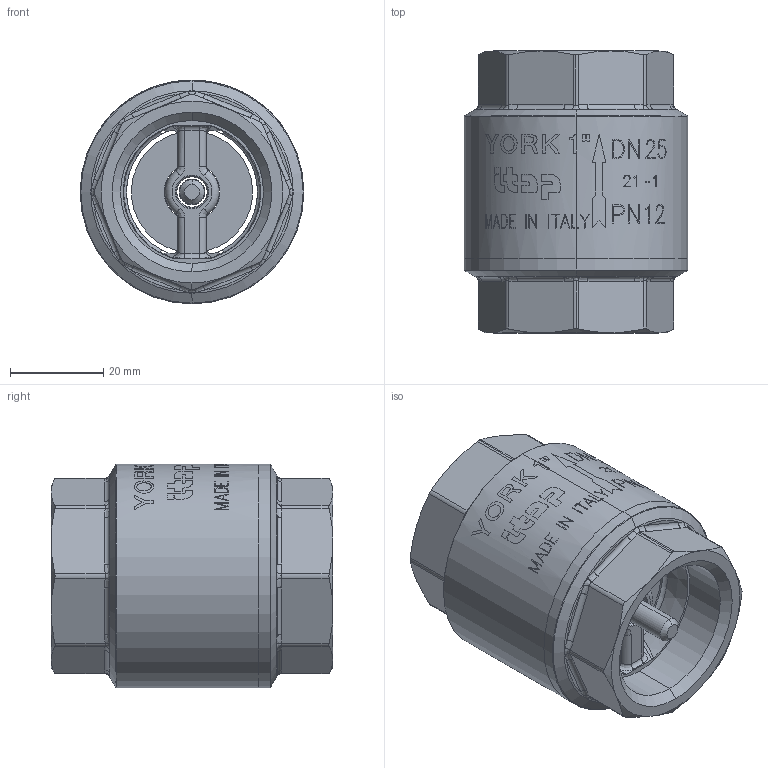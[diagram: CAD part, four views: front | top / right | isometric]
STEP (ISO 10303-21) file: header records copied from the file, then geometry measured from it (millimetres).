
FILE_DESCRIPTION (( 'STEP AP203' ), '1' );
FILE_NAME ('1030100.step', '2020-09-01T13:19:12', ( '' ), ( '' ), 'SwSTEP 2.0', 'SolidWorks 2018', '' );
FILE_SCHEMA (( 'CONFIG_CONTROL_DESIGN' ));
Length unit declared in the file: millimetre
Products named in the file (1): 1030100
Bounding box: 48 x 60.49 x 48 mm (x, y, z)
Surface area: 18745.5 mm2 (no closed solid volume)
Topology: 0 solids, 6 shells, 272 faces, 1224 edges, 988 vertices
Faces by surface type: cylinder 105, bspline 64, plane 47, cone 38, torus 18
Entity records: 16423 total; most frequent: CARTESIAN_POINT 7396, ORIENTED_EDGE 2334, DIRECTION 1304, EDGE_CURVE 1224, VERTEX_POINT 988, B_SPLINE_CURVE_WITH_KNOTS 638, AXIS2_PLACEMENT_3D 533, CIRCLE 324
